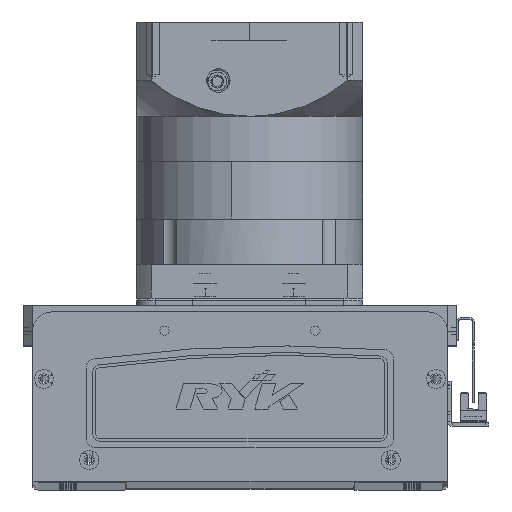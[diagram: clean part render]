
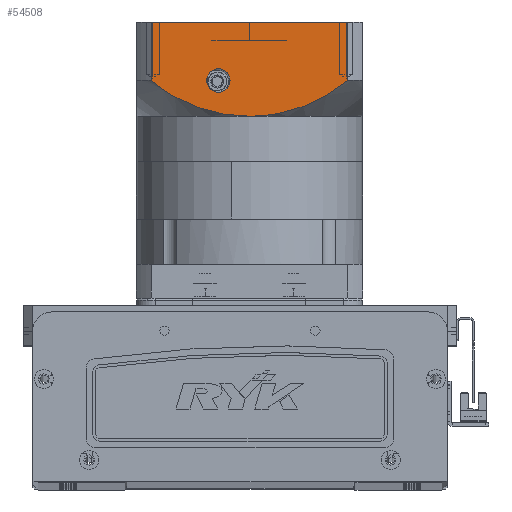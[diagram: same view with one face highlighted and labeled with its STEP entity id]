
A CAD part, top view. The second image highlights one B-rep face of the part: STEP entity #54508.
In plain terms, the highlighted planar face has unit normal (0, 0, 1) as drawn and (0, -1, 0) by its records, which use the part's own axes.
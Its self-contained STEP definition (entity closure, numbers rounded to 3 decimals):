
#168 = CARTESIAN_POINT ( 'NONE',  ( -52.156, -60., -150.5 ) ) ;
#1304 = CIRCLE ( 'NONE', #51462, 6.25 ) ;
#1700 = CARTESIAN_POINT ( 'NONE',  ( 15.267, -60., -101.938 ) ) ;
#1788 = CARTESIAN_POINT ( 'NONE',  ( 4.753, -60., -100.5 ) ) ;
#3336 = DIRECTION ( 'NONE',  ( 1., 0., 0. ) ) ;
#3888 = DIRECTION ( 'NONE',  ( 1., 0., 0. ) ) ;
#4045 = CARTESIAN_POINT ( 'NONE',  ( -44.656, -60., -113.73 ) ) ;
#4501 = CARTESIAN_POINT ( 'NONE',  ( -8.294, -60., -100.916 ) ) ;
#4776 = CARTESIAN_POINT ( 'NONE',  ( 52.156, -60., -119.5 ) ) ;
#4809 = VERTEX_POINT ( 'NONE', #58967 ) ;
#4826 = CARTESIAN_POINT ( 'NONE',  ( 0., -60., -100.5 ) ) ;
#5954 = DIRECTION ( 'NONE',  ( 0., 0., -1. ) ) ;
#6087 = FACE_BOUND ( 'NONE', #10917, .T. ) ;
#7673 = VERTEX_POINT ( 'NONE', #4826 ) ;
#8573 = B_SPLINE_CURVE_WITH_KNOTS ( 'NONE', 3,
 ( #62122, #9569, #4045, #20172, #57262, #30542, #14824, #45967, #30793, #9114, #25908, #14604, #40897, #51269, #4501, #20386, #15305, #10008 ),
 .UNSPECIFIED., .F., .F.,
 ( 4, 2, 2, 2, 2, 2, 2, 2, 4 ),
 ( 0., 0.014, 0.018, 0.021, 0.028, 0.042, 0.046, 0.05, 0.057 ),
 .UNSPECIFIED. ) ;
#8968 = VERTEX_POINT ( 'NONE', #18187 ) ;
#9114 = CARTESIAN_POINT ( 'NONE',  ( -23.319, -60., -103.777 ) ) ;
#9569 = CARTESIAN_POINT ( 'NONE',  ( -48.52, -60., -116.438 ) ) ;
#10008 = CARTESIAN_POINT ( 'NONE',  ( 0., -60., -100.5 ) ) ;
#10500 = ORIENTED_EDGE ( 'NONE', *, *, #40441, .T. ) ;
#10917 = EDGE_LOOP ( 'NONE', ( #32733, #47589 ) ) ;
#11647 = VERTEX_POINT ( 'NONE', #54414 ) ;
#12382 = EDGE_LOOP ( 'NONE', ( #58963, #10500, #64807, #46526, #49636 ) ) ;
#13248 = VERTEX_POINT ( 'NONE', #55237 ) ;
#14604 = CARTESIAN_POINT ( 'NONE',  ( -12.993, -60., -101.537 ) ) ;
#14824 = CARTESIAN_POINT ( 'NONE',  ( -35.342, -60., -108.587 ) ) ;
#15305 = CARTESIAN_POINT ( 'NONE',  ( -2.376, -60., -100.5 ) ) ;
#17159 = B_SPLINE_CURVE_WITH_KNOTS ( 'NONE', 3,
 ( #59618, #1788, #53117, #1700, #60896, #35481, #49895, #54753, #44368, #19451, #35859, #54252, #33507, #50927, #63561, #52480, #42537, #4776 ),
 .UNSPECIFIED., .F., .F.,
 ( 4, 2, 2, 2, 2, 2, 2, 2, 4 ),
 ( 0., 0.014, 0.018, 0.021, 0.028, 0.042, 0.046, 0.05, 0.057 ),
 .UNSPECIFIED. ) ;
#17261 = LINE ( 'NONE', #33791, #56044 ) ;
#18155 = EDGE_CURVE ( 'NONE', #13248, #11647, #19264, .T. ) ;
#18187 = CARTESIAN_POINT ( 'NONE',  ( 52.156, -60., -150.5 ) ) ;
#18325 = DIRECTION ( 'NONE',  ( 0., 0., 1. ) ) ;
#19264 = CIRCLE ( 'NONE', #40207, 6.25 ) ;
#19451 = CARTESIAN_POINT ( 'NONE',  ( 32.196, -60., -107.007 ) ) ;
#20172 = CARTESIAN_POINT ( 'NONE',  ( -39.546, -60., -110.776 ) ) ;
#20386 = CARTESIAN_POINT ( 'NONE',  ( -4.747, -60., -100.604 ) ) ;
#20905 = FACE_OUTER_BOUND ( 'NONE', #12382, .T. ) ;
#20985 = VECTOR ( 'NONE', #3888, 1000. ) ;
#21383 = DIRECTION ( 'NONE',  ( 0., 1., 0. ) ) ;
#24009 = EDGE_CURVE ( 'NONE', #8968, #47969, #33965, .T. ) ;
#24282 = PLANE ( 'NONE',  #66623 ) ;
#24308 = CARTESIAN_POINT ( 'NONE',  ( 52.156, -60., -119.5 ) ) ;
#24598 = DIRECTION ( 'NONE',  ( 0., 1., 0. ) ) ;
#25908 = CARTESIAN_POINT ( 'NONE',  ( -18.792, -60., -102.562 ) ) ;
#29601 = CARTESIAN_POINT ( 'NONE',  ( -60., -60., -150.5 ) ) ;
#30542 = CARTESIAN_POINT ( 'NONE',  ( -36.409, -60., -109.113 ) ) ;
#30653 = VERTEX_POINT ( 'NONE', #168 ) ;
#30793 = CARTESIAN_POINT ( 'NONE',  ( -29.939, -60., -106.183 ) ) ;
#32733 = ORIENTED_EDGE ( 'NONE', *, *, #18155, .T. ) ;
#33507 = CARTESIAN_POINT ( 'NONE',  ( 42.555, -60., -112.543 ) ) ;
#33791 = CARTESIAN_POINT ( 'NONE',  ( -52.156, -60., -97.5 ) ) ;
#33965 = LINE ( 'NONE', #64734, #61155 ) ;
#34781 = DIRECTION ( 'NONE',  ( 0., 0., -1. ) ) ;
#34868 = EDGE_CURVE ( 'NONE', #4809, #7673, #8573, .T. ) ;
#35049 = LINE ( 'NONE', #67259, #20985 ) ;
#35481 = CARTESIAN_POINT ( 'NONE',  ( 18.739, -60., -102.681 ) ) ;
#35859 = CARTESIAN_POINT ( 'NONE',  ( 36.444, -60., -108.986 ) ) ;
#40207 = AXIS2_PLACEMENT_3D ( 'NONE', #45593, #24598, #34781 ) ;
#40441 = EDGE_CURVE ( 'NONE', #30653, #8968, #35049, .T. ) ;
#40897 = CARTESIAN_POINT ( 'NONE',  ( -11.825, -60., -101.356 ) ) ;
#42368 = CARTESIAN_POINT ( 'NONE',  ( 16.5, -60., -119.5 ) ) ;
#42537 = CARTESIAN_POINT ( 'NONE',  ( 50.338, -60., -117.969 ) ) ;
#43543 = EDGE_CURVE ( 'NONE', #30653, #4809, #17261, .T. ) ;
#44368 = CARTESIAN_POINT ( 'NONE',  ( 25.577, -60., -104.596 ) ) ;
#45593 = CARTESIAN_POINT ( 'NONE',  ( 16.5, -60., -119.5 ) ) ;
#45967 = CARTESIAN_POINT ( 'NONE',  ( -32.118, -60., -107.084 ) ) ;
#46526 = ORIENTED_EDGE ( 'NONE', *, *, #54091, .F. ) ;
#47589 = ORIENTED_EDGE ( 'NONE', *, *, #61217, .T. ) ;
#47969 = VERTEX_POINT ( 'NONE', #24308 ) ;
#49636 = ORIENTED_EDGE ( 'NONE', *, *, #34868, .F. ) ;
#49895 = CARTESIAN_POINT ( 'NONE',  ( 19.894, -60., -102.964 ) ) ;
#50927 = CARTESIAN_POINT ( 'NONE',  ( 44.553, -60., -113.817 ) ) ;
#51269 = CARTESIAN_POINT ( 'NONE',  ( -9.477, -60., -101.046 ) ) ;
#51462 = AXIS2_PLACEMENT_3D ( 'NONE', #42368, #21383, #5954 ) ;
#52480 = CARTESIAN_POINT ( 'NONE',  ( 48.457, -60., -116.522 ) ) ;
#53117 = CARTESIAN_POINT ( 'NONE',  ( 9.454, -60., -100.914 ) ) ;
#54091 = EDGE_CURVE ( 'NONE', #7673, #47969, #17159, .T. ) ;
#54252 = CARTESIAN_POINT ( 'NONE',  ( 41.545, -60., -111.931 ) ) ;
#54414 = CARTESIAN_POINT ( 'NONE',  ( 16.5, -60., -113.25 ) ) ;
#54508 = ADVANCED_FACE ( 'NONE', ( #20905, #6087 ), #24282, .T. ) ;
#54753 = CARTESIAN_POINT ( 'NONE',  ( 23.329, -60., -103.886 ) ) ;
#55237 = CARTESIAN_POINT ( 'NONE',  ( 16.5, -60., -125.75 ) ) ;
#56044 = VECTOR ( 'NONE', #18325, 1000. ) ;
#57262 = CARTESIAN_POINT ( 'NONE',  ( -38.51, -60., -110.207 ) ) ;
#58963 = ORIENTED_EDGE ( 'NONE', *, *, #43543, .F. ) ;
#58967 = CARTESIAN_POINT ( 'NONE',  ( -52.156, -60., -119.5 ) ) ;
#59618 = CARTESIAN_POINT ( 'NONE',  ( 0., -60., -100.5 ) ) ;
#60896 = CARTESIAN_POINT ( 'NONE',  ( 16.426, -60., -102.169 ) ) ;
#61155 = VECTOR ( 'NONE', #64508, 1000. ) ;
#61217 = EDGE_CURVE ( 'NONE', #11647, #13248, #1304, .T. ) ;
#62122 = CARTESIAN_POINT ( 'NONE',  ( -52.156, -60., -119.5 ) ) ;
#63561 = CARTESIAN_POINT ( 'NONE',  ( 45.542, -60., -114.478 ) ) ;
#64508 = DIRECTION ( 'NONE',  ( 0., 0., 1. ) ) ;
#64734 = CARTESIAN_POINT ( 'NONE',  ( 52.156, -60., -150.5 ) ) ;
#64807 = ORIENTED_EDGE ( 'NONE', *, *, #24009, .T. ) ;
#66488 = DIRECTION ( 'NONE',  ( 0., -1., 0. ) ) ;
#66623 = AXIS2_PLACEMENT_3D ( 'NONE', #29601, #66488, #3336 ) ;
#67259 = CARTESIAN_POINT ( 'NONE',  ( -60., -60., -150.5 ) ) ;
